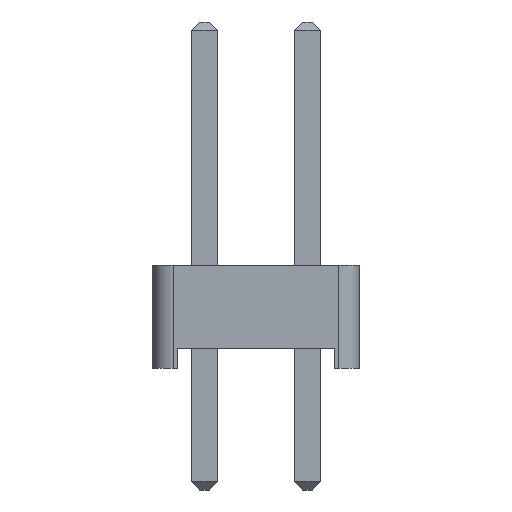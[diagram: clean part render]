
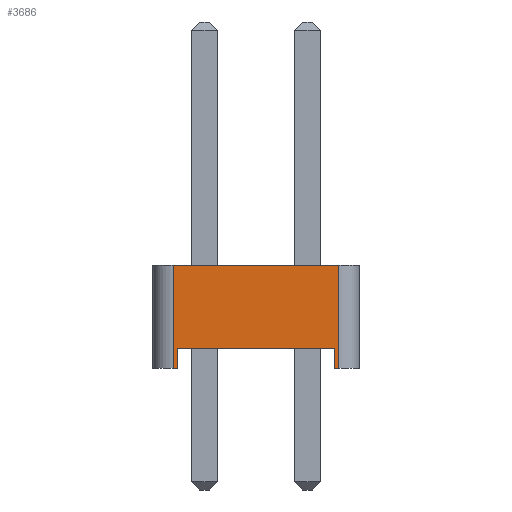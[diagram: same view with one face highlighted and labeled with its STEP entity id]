
A CAD part, left-side view. The second image highlights one B-rep face of the part: STEP entity #3686.
In plain terms, the highlighted planar face has unit normal (-1, 0, 0).
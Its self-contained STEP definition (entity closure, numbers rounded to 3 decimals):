
#3426 = VERTEX_POINT('',#3427);
#3427 = CARTESIAN_POINT('',(-1.27,2.04,0.));
#3435 = PLANE('',#3436);
#3436 = AXIS2_PLACEMENT_3D('',#3437,#3438,#3439);
#3437 = CARTESIAN_POINT('',(0.,0.,0.));
#3438 = DIRECTION('',(-0.,-0.,-1.));
#3439 = DIRECTION('',(-1.,0.,0.));
#3451 = CYLINDRICAL_SURFACE('',#3452,0.5);
#3452 = AXIS2_PLACEMENT_3D('',#3453,#3454,#3455);
#3453 = CARTESIAN_POINT('',(-0.77,2.04,0.));
#3454 = DIRECTION('',(0.,0.,1.));
#3455 = DIRECTION('',(0.,1.,0.));
#3553 = VERTEX_POINT('',#3554);
#3554 = CARTESIAN_POINT('',(-1.27,1.94,0.));
#3568 = PLANE('',#3569);
#3569 = AXIS2_PLACEMENT_3D('',#3570,#3571,#3572);
#3570 = CARTESIAN_POINT('',(1.27,1.94,0.));
#3571 = DIRECTION('',(0.,-1.,0.));
#3572 = DIRECTION('',(-1.,0.,0.));
#3580 = EDGE_CURVE('',#3553,#3426,#3581,.T.);
#3581 = SURFACE_CURVE('',#3582,(#3586,#3593),.PCURVE_S1.);
#3582 = LINE('',#3583,#3584);
#3583 = CARTESIAN_POINT('',(-1.27,-2.54,0.));
#3584 = VECTOR('',#3585,1.);
#3585 = DIRECTION('',(0.,1.,0.));
#3586 = PCURVE('',#3435,#3587);
#3587 = DEFINITIONAL_REPRESENTATION('',(#3588),#3592);
#3588 = LINE('',#3589,#3590);
#3589 = CARTESIAN_POINT('',(1.27,-2.54));
#3590 = VECTOR('',#3591,1.);
#3591 = DIRECTION('',(0.,1.));
#3592 = ( GEOMETRIC_REPRESENTATION_CONTEXT(2) 
PARAMETRIC_REPRESENTATION_CONTEXT() REPRESENTATION_CONTEXT('2D SPACE',''
  ) );
#3593 = PCURVE('',#3594,#3599);
#3594 = PLANE('',#3595);
#3595 = AXIS2_PLACEMENT_3D('',#3596,#3597,#3598);
#3596 = CARTESIAN_POINT('',(-1.27,-2.54,0.));
#3597 = DIRECTION('',(-1.,0.,0.));
#3598 = DIRECTION('',(0.,1.,0.));
#3599 = DEFINITIONAL_REPRESENTATION('',(#3600),#3604);
#3600 = LINE('',#3601,#3602);
#3601 = CARTESIAN_POINT('',(0.,0.));
#3602 = VECTOR('',#3603,1.);
#3603 = DIRECTION('',(1.,0.));
#3604 = ( GEOMETRIC_REPRESENTATION_CONTEXT(2) 
PARAMETRIC_REPRESENTATION_CONTEXT() REPRESENTATION_CONTEXT('2D SPACE',''
  ) );
#3610 = EDGE_CURVE('',#3426,#3611,#3613,.T.);
#3611 = VERTEX_POINT('',#3612);
#3612 = CARTESIAN_POINT('',(-1.27,2.04,2.54));
#3613 = SURFACE_CURVE('',#3614,(#3618,#3625),.PCURVE_S1.);
#3614 = LINE('',#3615,#3616);
#3615 = CARTESIAN_POINT('',(-1.27,2.04,0.));
#3616 = VECTOR('',#3617,1.);
#3617 = DIRECTION('',(0.,0.,1.));
#3618 = PCURVE('',#3451,#3619);
#3619 = DEFINITIONAL_REPRESENTATION('',(#3620),#3624);
#3620 = LINE('',#3621,#3622);
#3621 = CARTESIAN_POINT('',(1.571,0.));
#3622 = VECTOR('',#3623,1.);
#3623 = DIRECTION('',(0.,1.));
#3624 = ( GEOMETRIC_REPRESENTATION_CONTEXT(2) 
PARAMETRIC_REPRESENTATION_CONTEXT() REPRESENTATION_CONTEXT('2D SPACE',''
  ) );
#3625 = PCURVE('',#3594,#3626);
#3626 = DEFINITIONAL_REPRESENTATION('',(#3627),#3631);
#3627 = LINE('',#3628,#3629);
#3628 = CARTESIAN_POINT('',(4.58,0.));
#3629 = VECTOR('',#3630,1.);
#3630 = DIRECTION('',(0.,-1.));
#3631 = ( GEOMETRIC_REPRESENTATION_CONTEXT(2) 
PARAMETRIC_REPRESENTATION_CONTEXT() REPRESENTATION_CONTEXT('2D SPACE',''
  ) );
#3650 = PLANE('',#3651);
#3651 = AXIS2_PLACEMENT_3D('',#3652,#3653,#3654);
#3652 = CARTESIAN_POINT('',(0.,0.,2.54));
#3653 = DIRECTION('',(-0.,-0.,-1.));
#3654 = DIRECTION('',(-1.,0.,0.));
#3686 = ADVANCED_FACE('',(#3687),#3594,.T.);
#3687 = FACE_BOUND('',#3688,.T.);
#3688 = EDGE_LOOP('',(#3689,#3719,#3747,#3768,#3769,#3770,#3793,#3821));
#3689 = ORIENTED_EDGE('',*,*,#3690,.F.);
#3690 = EDGE_CURVE('',#3691,#3693,#3695,.T.);
#3691 = VERTEX_POINT('',#3692);
#3692 = CARTESIAN_POINT('',(-1.27,-2.04,0.));
#3693 = VERTEX_POINT('',#3694);
#3694 = CARTESIAN_POINT('',(-1.27,-1.94,0.));
#3695 = SURFACE_CURVE('',#3696,(#3700,#3707),.PCURVE_S1.);
#3696 = LINE('',#3697,#3698);
#3697 = CARTESIAN_POINT('',(-1.27,-2.54,0.));
#3698 = VECTOR('',#3699,1.);
#3699 = DIRECTION('',(0.,1.,0.));
#3700 = PCURVE('',#3594,#3701);
#3701 = DEFINITIONAL_REPRESENTATION('',(#3702),#3706);
#3702 = LINE('',#3703,#3704);
#3703 = CARTESIAN_POINT('',(0.,0.));
#3704 = VECTOR('',#3705,1.);
#3705 = DIRECTION('',(1.,0.));
#3706 = ( GEOMETRIC_REPRESENTATION_CONTEXT(2) 
PARAMETRIC_REPRESENTATION_CONTEXT() REPRESENTATION_CONTEXT('2D SPACE',''
  ) );
#3707 = PCURVE('',#3708,#3713);
#3708 = PLANE('',#3709);
#3709 = AXIS2_PLACEMENT_3D('',#3710,#3711,#3712);
#3710 = CARTESIAN_POINT('',(0.,0.,0.));
#3711 = DIRECTION('',(-0.,-0.,-1.));
#3712 = DIRECTION('',(-1.,0.,0.));
#3713 = DEFINITIONAL_REPRESENTATION('',(#3714),#3718);
#3714 = LINE('',#3715,#3716);
#3715 = CARTESIAN_POINT('',(1.27,-2.54));
#3716 = VECTOR('',#3717,1.);
#3717 = DIRECTION('',(0.,1.));
#3718 = ( GEOMETRIC_REPRESENTATION_CONTEXT(2) 
PARAMETRIC_REPRESENTATION_CONTEXT() REPRESENTATION_CONTEXT('2D SPACE',''
  ) );
#3719 = ORIENTED_EDGE('',*,*,#3720,.T.);
#3720 = EDGE_CURVE('',#3691,#3721,#3723,.T.);
#3721 = VERTEX_POINT('',#3722);
#3722 = CARTESIAN_POINT('',(-1.27,-2.04,2.54));
#3723 = SURFACE_CURVE('',#3724,(#3728,#3735),.PCURVE_S1.);
#3724 = LINE('',#3725,#3726);
#3725 = CARTESIAN_POINT('',(-1.27,-2.04,0.));
#3726 = VECTOR('',#3727,1.);
#3727 = DIRECTION('',(0.,0.,1.));
#3728 = PCURVE('',#3594,#3729);
#3729 = DEFINITIONAL_REPRESENTATION('',(#3730),#3734);
#3730 = LINE('',#3731,#3732);
#3731 = CARTESIAN_POINT('',(0.5,0.));
#3732 = VECTOR('',#3733,1.);
#3733 = DIRECTION('',(0.,-1.));
#3734 = ( GEOMETRIC_REPRESENTATION_CONTEXT(2) 
PARAMETRIC_REPRESENTATION_CONTEXT() REPRESENTATION_CONTEXT('2D SPACE',''
  ) );
#3735 = PCURVE('',#3736,#3741);
#3736 = CYLINDRICAL_SURFACE('',#3737,0.5);
#3737 = AXIS2_PLACEMENT_3D('',#3738,#3739,#3740);
#3738 = CARTESIAN_POINT('',(-0.77,-2.04,0.));
#3739 = DIRECTION('',(0.,0.,1.));
#3740 = DIRECTION('',(0.,-1.,0.));
#3741 = DEFINITIONAL_REPRESENTATION('',(#3742),#3746);
#3742 = LINE('',#3743,#3744);
#3743 = CARTESIAN_POINT('',(-1.571,0.));
#3744 = VECTOR('',#3745,1.);
#3745 = DIRECTION('',(-0.,1.));
#3746 = ( GEOMETRIC_REPRESENTATION_CONTEXT(2) 
PARAMETRIC_REPRESENTATION_CONTEXT() REPRESENTATION_CONTEXT('2D SPACE',''
  ) );
#3747 = ORIENTED_EDGE('',*,*,#3748,.T.);
#3748 = EDGE_CURVE('',#3721,#3611,#3749,.T.);
#3749 = SURFACE_CURVE('',#3750,(#3754,#3761),.PCURVE_S1.);
#3750 = LINE('',#3751,#3752);
#3751 = CARTESIAN_POINT('',(-1.27,-2.54,2.54));
#3752 = VECTOR('',#3753,1.);
#3753 = DIRECTION('',(0.,1.,0.));
#3754 = PCURVE('',#3594,#3755);
#3755 = DEFINITIONAL_REPRESENTATION('',(#3756),#3760);
#3756 = LINE('',#3757,#3758);
#3757 = CARTESIAN_POINT('',(0.,-2.54));
#3758 = VECTOR('',#3759,1.);
#3759 = DIRECTION('',(1.,0.));
#3760 = ( GEOMETRIC_REPRESENTATION_CONTEXT(2) 
PARAMETRIC_REPRESENTATION_CONTEXT() REPRESENTATION_CONTEXT('2D SPACE',''
  ) );
#3761 = PCURVE('',#3650,#3762);
#3762 = DEFINITIONAL_REPRESENTATION('',(#3763),#3767);
#3763 = LINE('',#3764,#3765);
#3764 = CARTESIAN_POINT('',(1.27,-2.54));
#3765 = VECTOR('',#3766,1.);
#3766 = DIRECTION('',(0.,1.));
#3767 = ( GEOMETRIC_REPRESENTATION_CONTEXT(2) 
PARAMETRIC_REPRESENTATION_CONTEXT() REPRESENTATION_CONTEXT('2D SPACE',''
  ) );
#3768 = ORIENTED_EDGE('',*,*,#3610,.F.);
#3769 = ORIENTED_EDGE('',*,*,#3580,.F.);
#3770 = ORIENTED_EDGE('',*,*,#3771,.T.);
#3771 = EDGE_CURVE('',#3553,#3772,#3774,.T.);
#3772 = VERTEX_POINT('',#3773);
#3773 = CARTESIAN_POINT('',(-1.27,1.94,0.5));
#3774 = SURFACE_CURVE('',#3775,(#3779,#3786),.PCURVE_S1.);
#3775 = LINE('',#3776,#3777);
#3776 = CARTESIAN_POINT('',(-1.27,1.94,0.));
#3777 = VECTOR('',#3778,1.);
#3778 = DIRECTION('',(0.,0.,1.));
#3779 = PCURVE('',#3594,#3780);
#3780 = DEFINITIONAL_REPRESENTATION('',(#3781),#3785);
#3781 = LINE('',#3782,#3783);
#3782 = CARTESIAN_POINT('',(4.48,0.));
#3783 = VECTOR('',#3784,1.);
#3784 = DIRECTION('',(0.,-1.));
#3785 = ( GEOMETRIC_REPRESENTATION_CONTEXT(2) 
PARAMETRIC_REPRESENTATION_CONTEXT() REPRESENTATION_CONTEXT('2D SPACE',''
  ) );
#3786 = PCURVE('',#3568,#3787);
#3787 = DEFINITIONAL_REPRESENTATION('',(#3788),#3792);
#3788 = LINE('',#3789,#3790);
#3789 = CARTESIAN_POINT('',(2.54,0.));
#3790 = VECTOR('',#3791,1.);
#3791 = DIRECTION('',(0.,-1.));
#3792 = ( GEOMETRIC_REPRESENTATION_CONTEXT(2) 
PARAMETRIC_REPRESENTATION_CONTEXT() REPRESENTATION_CONTEXT('2D SPACE',''
  ) );
#3793 = ORIENTED_EDGE('',*,*,#3794,.T.);
#3794 = EDGE_CURVE('',#3772,#3795,#3797,.T.);
#3795 = VERTEX_POINT('',#3796);
#3796 = CARTESIAN_POINT('',(-1.27,-1.94,0.5));
#3797 = SURFACE_CURVE('',#3798,(#3802,#3809),.PCURVE_S1.);
#3798 = LINE('',#3799,#3800);
#3799 = CARTESIAN_POINT('',(-1.27,1.94,0.5));
#3800 = VECTOR('',#3801,1.);
#3801 = DIRECTION('',(0.,-1.,0.));
#3802 = PCURVE('',#3594,#3803);
#3803 = DEFINITIONAL_REPRESENTATION('',(#3804),#3808);
#3804 = LINE('',#3805,#3806);
#3805 = CARTESIAN_POINT('',(4.48,-0.5));
#3806 = VECTOR('',#3807,1.);
#3807 = DIRECTION('',(-1.,0.));
#3808 = ( GEOMETRIC_REPRESENTATION_CONTEXT(2) 
PARAMETRIC_REPRESENTATION_CONTEXT() REPRESENTATION_CONTEXT('2D SPACE',''
  ) );
#3809 = PCURVE('',#3810,#3815);
#3810 = PLANE('',#3811);
#3811 = AXIS2_PLACEMENT_3D('',#3812,#3813,#3814);
#3812 = CARTESIAN_POINT('',(0.,0.,0.5));
#3813 = DIRECTION('',(0.,0.,1.));
#3814 = DIRECTION('',(1.,0.,0.));
#3815 = DEFINITIONAL_REPRESENTATION('',(#3816),#3820);
#3816 = LINE('',#3817,#3818);
#3817 = CARTESIAN_POINT('',(-1.27,1.94));
#3818 = VECTOR('',#3819,1.);
#3819 = DIRECTION('',(0.,-1.));
#3820 = ( GEOMETRIC_REPRESENTATION_CONTEXT(2) 
PARAMETRIC_REPRESENTATION_CONTEXT() REPRESENTATION_CONTEXT('2D SPACE',''
  ) );
#3821 = ORIENTED_EDGE('',*,*,#3822,.F.);
#3822 = EDGE_CURVE('',#3693,#3795,#3823,.T.);
#3823 = SURFACE_CURVE('',#3824,(#3828,#3835),.PCURVE_S1.);
#3824 = LINE('',#3825,#3826);
#3825 = CARTESIAN_POINT('',(-1.27,-1.94,0.));
#3826 = VECTOR('',#3827,1.);
#3827 = DIRECTION('',(0.,0.,1.));
#3828 = PCURVE('',#3594,#3829);
#3829 = DEFINITIONAL_REPRESENTATION('',(#3830),#3834);
#3830 = LINE('',#3831,#3832);
#3831 = CARTESIAN_POINT('',(0.6,0.));
#3832 = VECTOR('',#3833,1.);
#3833 = DIRECTION('',(0.,-1.));
#3834 = ( GEOMETRIC_REPRESENTATION_CONTEXT(2) 
PARAMETRIC_REPRESENTATION_CONTEXT() REPRESENTATION_CONTEXT('2D SPACE',''
  ) );
#3835 = PCURVE('',#3836,#3841);
#3836 = PLANE('',#3837);
#3837 = AXIS2_PLACEMENT_3D('',#3838,#3839,#3840);
#3838 = CARTESIAN_POINT('',(-1.27,-1.94,0.));
#3839 = DIRECTION('',(0.,1.,0.));
#3840 = DIRECTION('',(1.,0.,0.));
#3841 = DEFINITIONAL_REPRESENTATION('',(#3842),#3846);
#3842 = LINE('',#3843,#3844);
#3843 = CARTESIAN_POINT('',(0.,0.));
#3844 = VECTOR('',#3845,1.);
#3845 = DIRECTION('',(0.,-1.));
#3846 = ( GEOMETRIC_REPRESENTATION_CONTEXT(2) 
PARAMETRIC_REPRESENTATION_CONTEXT() REPRESENTATION_CONTEXT('2D SPACE',''
  ) );
